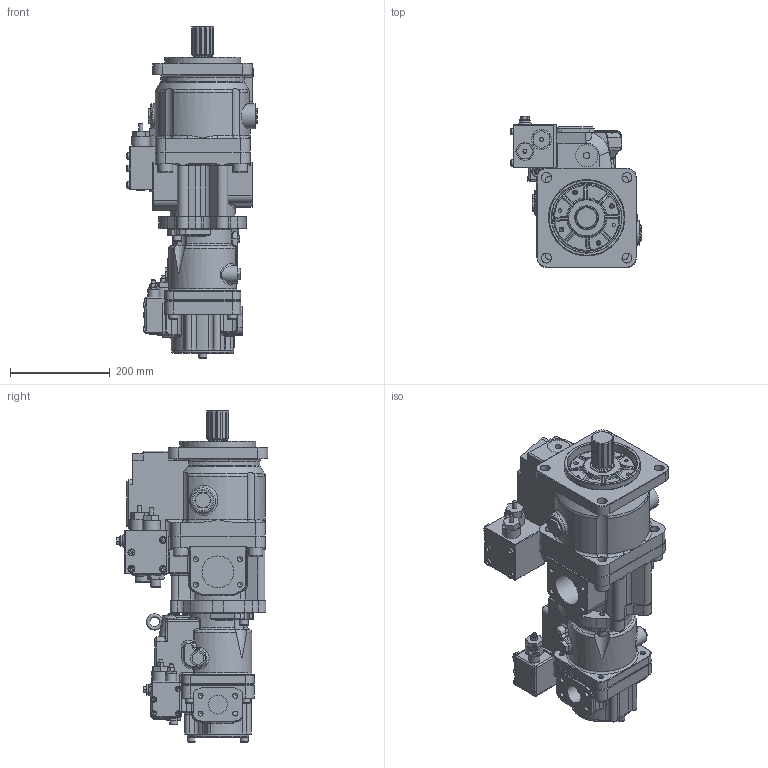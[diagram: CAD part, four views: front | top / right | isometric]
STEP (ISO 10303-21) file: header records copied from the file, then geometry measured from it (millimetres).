
FILE_DESCRIPTION((''),'2;1');
FILE_NAME('J:\Inventor\K3V, M2X\MODEL LIBRARY\K3VL140B 1BLSM P0 + K3VL45B 1NLSM P0.stp','2007-11-02T09:58:09',('mnorman'),(''),'Autodesk Inventor 2008','Autodesk Inventor 2008','');
FILE_SCHEMA(('AUTOMOTIVE_DESIGN { 1 0 10303 214 1 1 1 1 }'));
Length unit declared in the file: millimetre
Products named in the file (1): Part1
Bounding box: 261 x 304 x 666.5 mm (x, y, z)
Volume: 17140677.7 mm3; surface area: 970280.2 mm2
Topology: 1 solids, 44 shells, 2380 faces, 5700 edges, 3498 vertices
Faces by surface type: plane 998, cylinder 525, bspline 496, cone 280, torus 70, sphere 11
Full cylindrical faces by diameter (mm): 6 x4, 6.5 x4, 8 x11, 9.5 x4, 10 x4, 10.106 x3, 11 x4, 12 x10, 12.717 x1, 13 x4, 16 x8, 18 x10, 20 x10, 21 x2, 21.3 x1, 22 x3, 24 x1, 25 x1, 30 x9, 32 x2, 35.5 x1, 36 x2, 36.7 x1, 38 x1, 40 x1, 41 x2, 45 x1, 46 x1, 48 x2, 50 x2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
Entity records: 89920 total; most frequent: CARTESIAN_POINT 38238, ORIENTED_EDGE 10166, DIRECTION 9808, EDGE_CURVE 5083, AXIS2_PLACEMENT_3D 3770, VERTEX_POINT 3305, EDGE_LOOP 2960, FACE_OUTER_BOUND 2379
